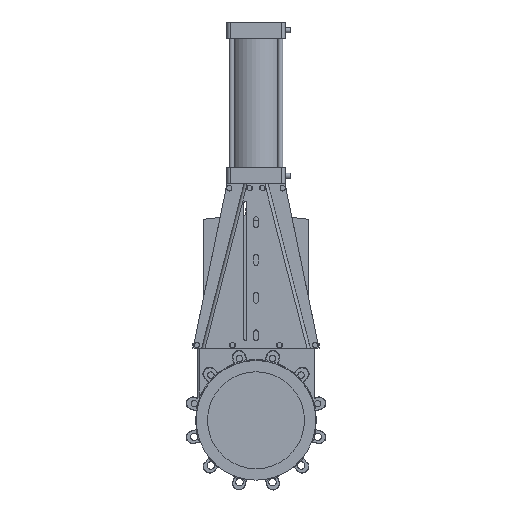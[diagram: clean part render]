
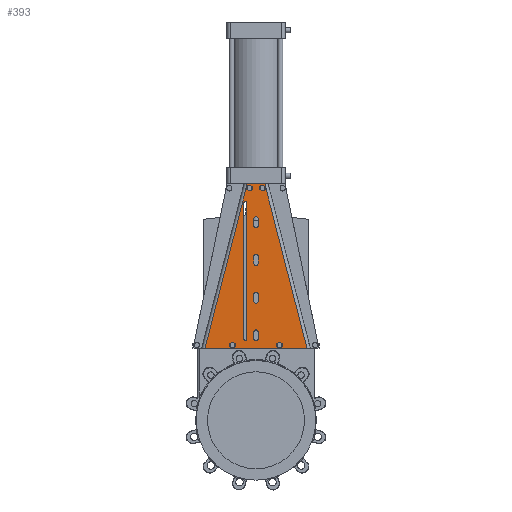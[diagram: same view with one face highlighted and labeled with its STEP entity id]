
A CAD part, top view. The second image highlights one B-rep face of the part: STEP entity #393.
In plain terms, the highlighted planar face has unit normal (0, 0, 1).
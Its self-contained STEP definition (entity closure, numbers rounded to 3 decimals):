
#393=ADVANCED_FACE('',(#11431,#11433,#11435,#11437,#11439,#11441,#11443,#11445,#11447,
#11449),#11451,.F.);
#11431=FACE_BOUND('',#11432,.T.);
#11432=EDGE_LOOP('',(#26633,#26634,#26635,#26636));
#11433=FACE_BOUND('',#11434,.T.);
#11434=EDGE_LOOP('',(#26637));
#11435=FACE_BOUND('',#11436,.T.);
#11436=EDGE_LOOP('',(#26638,#26639,#26640,#26641));
#11437=FACE_BOUND('',#11438,.T.);
#11438=EDGE_LOOP('',(#26642,#26643,#26644,#26645));
#11439=FACE_BOUND('',#11440,.T.);
#11440=EDGE_LOOP('',(#26646,#26647,#26648,#26649));
#11441=FACE_BOUND('',#11442,.T.);
#11442=EDGE_LOOP('',(#26650,#26651,#26652,#26653));
#11443=FACE_BOUND('',#11444,.T.);
#11444=EDGE_LOOP('',(#26654,#26655,#26656,#26657));
#11445=FACE_BOUND('',#11446,.T.);
#11446=EDGE_LOOP('',(#26658));
#11447=FACE_BOUND('',#11448,.T.);
#11448=EDGE_LOOP('',(#26659));
#11449=FACE_BOUND('',#11450,.T.);
#11450=EDGE_LOOP('',(#26660));
#11451=PLANE('',#11452);
#11452=AXIS2_PLACEMENT_3D('',#11453,#11454,#11455);
#11453=CARTESIAN_POINT('',(-27.338,731.,74.));
#11454=DIRECTION('',(0.,0.,-1.));
#11455=DIRECTION('',(1.,0.,0.));
#26633=ORIENTED_EDGE('',*,*,#32944,.F.);
#26634=ORIENTED_EDGE('',*,*,#32945,.T.);
#26635=ORIENTED_EDGE('',*,*,#32811,.F.);
#26636=ORIENTED_EDGE('',*,*,#32940,.F.);
#26637=ORIENTED_EDGE('',*,*,#32946,.F.);
#26638=ORIENTED_EDGE('',*,*,#32947,.T.);
#26639=ORIENTED_EDGE('',*,*,#32948,.T.);
#26640=ORIENTED_EDGE('',*,*,#32949,.T.);
#26641=ORIENTED_EDGE('',*,*,#32950,.T.);
#26642=ORIENTED_EDGE('',*,*,#32951,.T.);
#26643=ORIENTED_EDGE('',*,*,#32952,.T.);
#26644=ORIENTED_EDGE('',*,*,#32953,.T.);
#26645=ORIENTED_EDGE('',*,*,#32954,.T.);
#26646=ORIENTED_EDGE('',*,*,#32955,.T.);
#26647=ORIENTED_EDGE('',*,*,#32956,.T.);
#26648=ORIENTED_EDGE('',*,*,#32957,.T.);
#26649=ORIENTED_EDGE('',*,*,#32958,.T.);
#26650=ORIENTED_EDGE('',*,*,#32959,.T.);
#26651=ORIENTED_EDGE('',*,*,#32960,.T.);
#26652=ORIENTED_EDGE('',*,*,#32961,.T.);
#26653=ORIENTED_EDGE('',*,*,#32962,.T.);
#26654=ORIENTED_EDGE('',*,*,#32963,.T.);
#26655=ORIENTED_EDGE('',*,*,#32964,.T.);
#26656=ORIENTED_EDGE('',*,*,#32965,.T.);
#26657=ORIENTED_EDGE('',*,*,#32966,.T.);
#26658=ORIENTED_EDGE('',*,*,#32967,.T.);
#26659=ORIENTED_EDGE('',*,*,#32968,.T.);
#26660=ORIENTED_EDGE('',*,*,#32969,.F.);
#32811=EDGE_CURVE('',#35798,#35800,#35801,.T.);
#32940=EDGE_CURVE('',#36034,#35798,#36036,.T.);
#32944=EDGE_CURVE('',#36043,#36034,#36044,.T.);
#32945=EDGE_CURVE('',#36043,#35800,#36045,.T.);
#32946=EDGE_CURVE('',#36046,#36046,#36047,.T.);
#32947=EDGE_CURVE('',#36048,#36049,#36050,.T.);
#32948=EDGE_CURVE('',#36049,#36051,#36052,.F.);
#32949=EDGE_CURVE('',#36051,#36053,#36054,.T.);
#32950=EDGE_CURVE('',#36053,#36048,#36055,.F.);
#32951=EDGE_CURVE('',#36056,#36057,#36058,.T.);
#32952=EDGE_CURVE('',#36057,#36059,#36060,.F.);
#32953=EDGE_CURVE('',#36059,#36061,#36062,.T.);
#32954=EDGE_CURVE('',#36061,#36056,#36063,.F.);
#32955=EDGE_CURVE('',#36064,#36065,#36066,.T.);
#32956=EDGE_CURVE('',#36065,#36067,#36068,.F.);
#32957=EDGE_CURVE('',#36067,#36069,#36070,.T.);
#32958=EDGE_CURVE('',#36069,#36064,#36071,.F.);
#32959=EDGE_CURVE('',#36072,#36073,#36074,.T.);
#32960=EDGE_CURVE('',#36073,#36075,#36076,.F.);
#32961=EDGE_CURVE('',#36075,#36077,#36078,.T.);
#32962=EDGE_CURVE('',#36077,#36072,#36079,.F.);
#32963=EDGE_CURVE('',#36080,#36081,#36082,.F.);
#32964=EDGE_CURVE('',#36081,#36083,#36084,.T.);
#32965=EDGE_CURVE('',#36083,#36085,#36086,.F.);
#32966=EDGE_CURVE('',#36085,#36080,#36087,.T.);
#32967=EDGE_CURVE('',#36088,#36088,#36089,.F.);
#32968=EDGE_CURVE('',#36090,#36090,#36091,.F.);
#32969=EDGE_CURVE('',#36092,#36092,#36093,.T.);
#35798=VERTEX_POINT('',#40647);
#35800=VERTEX_POINT('',#40652);
#35801=LINE('',#40653,#40654);
#36034=VERTEX_POINT('',#41193);
#36036=LINE('',#41198,#41199);
#36043=VERTEX_POINT('',#41215);
#36044=LINE('',#41216,#41217);
#36045=LINE('',#41219,#41220);
#36046=VERTEX_POINT('',#41222);
#36047=CIRCLE('',#41223,8.);
#36048=VERTEX_POINT('',#41227);
#36049=VERTEX_POINT('',#41228);
#36050=LINE('',#41229,#41230);
#36051=VERTEX_POINT('',#41232);
#36052=CIRCLE('',#41233,7.);
#36053=VERTEX_POINT('',#41237);
#36054=LINE('',#41238,#41239);
#36055=CIRCLE('',#41241,7.);
#36056=VERTEX_POINT('',#41245);
#36057=VERTEX_POINT('',#41246);
#36058=LINE('',#41247,#41248);
#36059=VERTEX_POINT('',#41250);
#36060=CIRCLE('',#41251,7.);
#36061=VERTEX_POINT('',#41255);
#36062=LINE('',#41256,#41257);
#36063=CIRCLE('',#41259,7.);
#36064=VERTEX_POINT('',#41263);
#36065=VERTEX_POINT('',#41264);
#36066=LINE('',#41265,#41266);
#36067=VERTEX_POINT('',#41268);
#36068=CIRCLE('',#41269,7.);
#36069=VERTEX_POINT('',#41273);
#36070=LINE('',#41274,#41275);
#36071=CIRCLE('',#41277,7.);
#36072=VERTEX_POINT('',#41281);
#36073=VERTEX_POINT('',#41282);
#36074=LINE('',#41283,#41284);
#36075=VERTEX_POINT('',#41286);
#36076=CIRCLE('',#41287,7.);
#36077=VERTEX_POINT('',#41291);
#36078=LINE('',#41292,#41293);
#36079=CIRCLE('',#41295,7.);
#36080=VERTEX_POINT('',#41299);
#36081=VERTEX_POINT('',#41300);
#36082=CIRCLE('',#41301,5.);
#36083=VERTEX_POINT('',#41305);
#36084=LINE('',#41306,#41307);
#36085=VERTEX_POINT('',#41309);
#36086=CIRCLE('',#41310,5.);
#36087=LINE('',#41314,#41315);
#36088=VERTEX_POINT('',#41317);
#36089=CIRCLE('',#41318,8.);
#36090=VERTEX_POINT('',#41322);
#36091=CIRCLE('',#41323,8.);
#36092=VERTEX_POINT('',#41327);
#36093=CIRCLE('',#41328,8.);
#40647=CARTESIAN_POINT('',(158.027,222.5,74.));
#40652=CARTESIAN_POINT('',(-158.027,222.5,74.));
#40653=CARTESIAN_POINT('',(158.027,222.5,74.));
#40654=VECTOR('',#40655,1.);
#40655=DIRECTION('',(-1.,0.,0.));
#41193=CARTESIAN_POINT('',(27.338,731.,74.));
#41198=CARTESIAN_POINT('',(27.338,731.,74.));
#41199=VECTOR('',#41200,1.);
#41200=DIRECTION('',(0.249,-0.969,0.));
#41215=CARTESIAN_POINT('',(-27.338,731.,74.));
#41216=CARTESIAN_POINT('',(-27.338,731.,74.));
#41217=VECTOR('',#41218,1.);
#41218=DIRECTION('',(1.,0.,0.));
#41219=CARTESIAN_POINT('',(-27.338,731.,74.));
#41220=VECTOR('',#41221,1.);
#41221=DIRECTION('',(-0.249,-0.969,0.));
#41222=CARTESIAN_POINT('',(28.225,718.5,74.));
#41223=AXIS2_PLACEMENT_3D('',#41224,#41225,#41226);
#41224=CARTESIAN_POINT('',(20.225,718.5,74.));
#41225=DIRECTION('',(0.,0.,1.));
#41226=DIRECTION('',(1.,0.,0.));
#41227=CARTESIAN_POINT('',(7.,272.5,74.));
#41228=CARTESIAN_POINT('',(7.,252.5,74.));
#41229=CARTESIAN_POINT('',(7.,272.5,74.));
#41230=VECTOR('',#41231,1.);
#41231=DIRECTION('',(0.,-1.,0.));
#41232=CARTESIAN_POINT('',(-7.,252.5,74.));
#41233=AXIS2_PLACEMENT_3D('',#41234,#41235,#41236);
#41234=CARTESIAN_POINT('',(0.,252.5,74.));
#41235=DIRECTION('',(0.,0.,1.));
#41236=DIRECTION('',(-1.,0.,0.));
#41237=CARTESIAN_POINT('',(-7.,272.5,74.));
#41238=CARTESIAN_POINT('',(-7.,252.5,74.));
#41239=VECTOR('',#41240,1.);
#41240=DIRECTION('',(0.,1.,0.));
#41241=AXIS2_PLACEMENT_3D('',#41242,#41243,#41244);
#41242=CARTESIAN_POINT('',(0.,272.5,74.));
#41243=DIRECTION('',(0.,0.,1.));
#41244=DIRECTION('',(1.,0.,0.));
#41245=CARTESIAN_POINT('',(7.,622.5,74.));
#41246=CARTESIAN_POINT('',(7.,602.5,74.));
#41247=CARTESIAN_POINT('',(7.,622.5,74.));
#41248=VECTOR('',#41249,1.);
#41249=DIRECTION('',(0.,-1.,0.));
#41250=CARTESIAN_POINT('',(-7.,602.5,74.));
#41251=AXIS2_PLACEMENT_3D('',#41252,#41253,#41254);
#41252=CARTESIAN_POINT('',(0.,602.5,74.));
#41253=DIRECTION('',(0.,0.,1.));
#41254=DIRECTION('',(-1.,0.,0.));
#41255=CARTESIAN_POINT('',(-7.,622.5,74.));
#41256=CARTESIAN_POINT('',(-7.,602.5,74.));
#41257=VECTOR('',#41258,1.);
#41258=DIRECTION('',(0.,1.,0.));
#41259=AXIS2_PLACEMENT_3D('',#41260,#41261,#41262);
#41260=CARTESIAN_POINT('',(0.,622.5,74.));
#41261=DIRECTION('',(0.,0.,1.));
#41262=DIRECTION('',(1.,0.,0.));
#41263=CARTESIAN_POINT('',(7.,505.833,74.));
#41264=CARTESIAN_POINT('',(7.,485.833,74.));
#41265=CARTESIAN_POINT('',(7.,505.833,74.));
#41266=VECTOR('',#41267,1.);
#41267=DIRECTION('',(0.,-1.,0.));
#41268=CARTESIAN_POINT('',(-7.,485.833,74.));
#41269=AXIS2_PLACEMENT_3D('',#41270,#41271,#41272);
#41270=CARTESIAN_POINT('',(0.,485.833,74.));
#41271=DIRECTION('',(0.,0.,1.));
#41272=DIRECTION('',(-1.,0.,0.));
#41273=CARTESIAN_POINT('',(-7.,505.833,74.));
#41274=CARTESIAN_POINT('',(-7.,485.833,74.));
#41275=VECTOR('',#41276,1.);
#41276=DIRECTION('',(0.,1.,0.));
#41277=AXIS2_PLACEMENT_3D('',#41278,#41279,#41280);
#41278=CARTESIAN_POINT('',(0.,505.833,74.));
#41279=DIRECTION('',(0.,0.,1.));
#41280=DIRECTION('',(1.,0.,0.));
#41281=CARTESIAN_POINT('',(7.,389.167,74.));
#41282=CARTESIAN_POINT('',(7.,369.167,74.));
#41283=CARTESIAN_POINT('',(7.,389.167,74.));
#41284=VECTOR('',#41285,1.);
#41285=DIRECTION('',(0.,-1.,0.));
#41286=CARTESIAN_POINT('',(-7.,369.167,74.));
#41287=AXIS2_PLACEMENT_3D('',#41288,#41289,#41290);
#41288=CARTESIAN_POINT('',(0.,369.167,74.));
#41289=DIRECTION('',(0.,0.,1.));
#41290=DIRECTION('',(-1.,0.,0.));
#41291=CARTESIAN_POINT('',(-7.,389.167,74.));
#41292=CARTESIAN_POINT('',(-7.,369.167,74.));
#41293=VECTOR('',#41294,1.);
#41294=DIRECTION('',(0.,1.,0.));
#41295=AXIS2_PLACEMENT_3D('',#41296,#41297,#41298);
#41296=CARTESIAN_POINT('',(0.,389.167,74.));
#41297=DIRECTION('',(0.,0.,1.));
#41298=DIRECTION('',(1.,0.,0.));
#41299=CARTESIAN_POINT('',(-38.027,671.,74.));
#41300=CARTESIAN_POINT('',(-28.027,671.,74.));
#41301=AXIS2_PLACEMENT_3D('',#41302,#41303,#41304);
#41302=CARTESIAN_POINT('',(-33.027,671.,74.));
#41303=DIRECTION('',(0.,0.,1.));
#41304=DIRECTION('',(1.,0.,0.));
#41305=CARTESIAN_POINT('',(-28.027,252.5,74.));
#41306=CARTESIAN_POINT('',(-28.027,671.,74.));
#41307=VECTOR('',#41308,1.);
#41308=DIRECTION('',(0.,-1.,0.));
#41309=CARTESIAN_POINT('',(-38.027,252.5,74.));
#41310=AXIS2_PLACEMENT_3D('',#41311,#41312,#41313);
#41311=CARTESIAN_POINT('',(-33.027,252.5,74.));
#41312=DIRECTION('',(0.,0.,1.));
#41313=DIRECTION('',(-1.,0.,0.));
#41314=CARTESIAN_POINT('',(-38.027,252.5,74.));
#41315=VECTOR('',#41316,1.);
#41316=DIRECTION('',(0.,1.,0.));
#41317=CARTESIAN_POINT('',(80.857,232.5,74.));
#41318=AXIS2_PLACEMENT_3D('',#41319,#41320,#41321);
#41319=CARTESIAN_POINT('',(72.857,232.5,74.));
#41320=DIRECTION('',(0.,0.,1.));
#41321=DIRECTION('',(1.,0.,0.));
#41322=CARTESIAN_POINT('',(-64.857,232.5,74.));
#41323=AXIS2_PLACEMENT_3D('',#41324,#41325,#41326);
#41324=CARTESIAN_POINT('',(-72.857,232.5,74.));
#41325=DIRECTION('',(0.,0.,1.));
#41326=DIRECTION('',(1.,0.,0.));
#41327=CARTESIAN_POINT('',(-12.225,718.5,74.));
#41328=AXIS2_PLACEMENT_3D('',#41329,#41330,#41331);
#41329=CARTESIAN_POINT('',(-20.225,718.5,74.));
#41330=DIRECTION('',(0.,0.,1.));
#41331=DIRECTION('',(1.,0.,0.));
